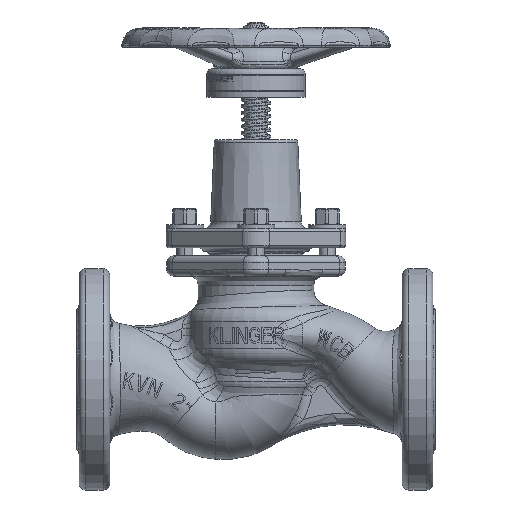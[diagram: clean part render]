
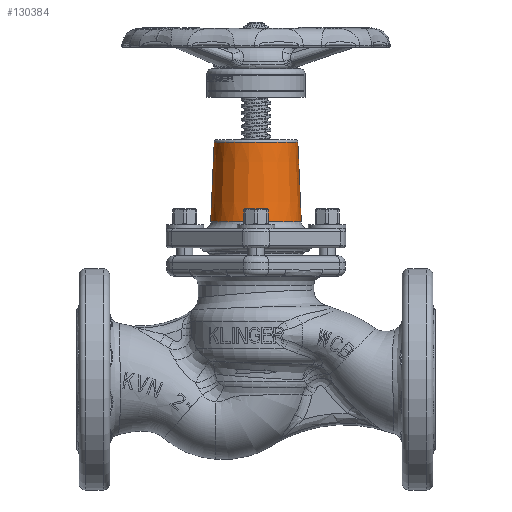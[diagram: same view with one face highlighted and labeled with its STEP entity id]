
A CAD part, front view. The second image highlights one B-rep face of the part: STEP entity #130384.
In plain terms, the highlighted conical face has half-angle 2.5 degrees and reference radius 32.475 mm.
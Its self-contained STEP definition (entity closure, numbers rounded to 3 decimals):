
#30576=DIRECTION('',(0.044,0.,-0.999));
#30577=VECTOR('',#30576,16.103);
#30578=CARTESIAN_POINT('',(31.18,0.,
176.687));
#30579=LINE('',#30578,#30577);
#30585=DIRECTION('',(-0.044,0.,-0.999));
#30586=VECTOR('',#30585,59.384);
#30587=CARTESIAN_POINT('',(-31.18,0.,176.687));
#30588=LINE('',#30587,#30586);
#30594=DIRECTION('',(0.044,0.,-0.999));
#30595=VECTOR('',#30594,39.277);
#30596=CARTESIAN_POINT('',(32.057,0.,156.6));
#30597=LINE('',#30596,#30595);
#30627=CARTESIAN_POINT('',(31.907,-2.,158.6));
#30628=CARTESIAN_POINT('',(31.905,-2.,158.642));
#30629=CARTESIAN_POINT('',(31.902,-1.997,
158.726));
#30630=CARTESIAN_POINT('',(31.897,-1.986,
158.851));
#30631=CARTESIAN_POINT('',(31.893,-1.966,
158.975));
#30632=CARTESIAN_POINT('',(31.889,-1.938,
159.098));
#30633=CARTESIAN_POINT('',(31.886,-1.903,
159.219));
#30634=CARTESIAN_POINT('',(31.883,-1.861,
159.337));
#30635=CARTESIAN_POINT('',(31.881,-1.811,
159.452));
#30636=CARTESIAN_POINT('',(31.879,-1.754,
159.564));
#30637=CARTESIAN_POINT('',(31.878,-1.69,
159.672));
#30638=CARTESIAN_POINT('',(31.877,-1.619,
159.776));
#30639=CARTESIAN_POINT('',(31.877,-1.542,
159.875));
#30640=CARTESIAN_POINT('',(31.877,-1.459,
159.969));
#30641=CARTESIAN_POINT('',(31.877,-1.371,
160.058));
#30642=CARTESIAN_POINT('',(31.877,-1.276,
160.142));
#30643=CARTESIAN_POINT('',(31.877,-1.177,
160.219));
#30644=CARTESIAN_POINT('',(31.878,-1.073,
160.289));
#30645=CARTESIAN_POINT('',(31.879,-0.965,
160.353));
#30646=CARTESIAN_POINT('',(31.879,-0.853,
160.411));
#30647=CARTESIAN_POINT('',(31.88,-0.737,
160.461));
#30648=CARTESIAN_POINT('',(31.881,-0.619,
160.503));
#30649=CARTESIAN_POINT('',(31.881,-0.498,
160.538));
#30650=CARTESIAN_POINT('',(31.882,-0.375,
160.566));
#30651=CARTESIAN_POINT('',(31.882,-0.251,
160.586));
#30652=CARTESIAN_POINT('',(31.882,-0.126,
160.597));
#30653=CARTESIAN_POINT('',(31.882,-0.042,160.6));
#30654=CARTESIAN_POINT('',(31.882,0.,160.6));
#30656=CARTESIAN_POINT('',(32.057,0.,156.6));
#30657=CARTESIAN_POINT('',(32.057,-0.042,156.6));
#30658=CARTESIAN_POINT('',(32.057,-0.125,
156.603));
#30659=CARTESIAN_POINT('',(32.056,-0.25,
156.614));
#30660=CARTESIAN_POINT('',(32.054,-0.374,
156.634));
#30661=CARTESIAN_POINT('',(32.051,-0.496,
156.661));
#30662=CARTESIAN_POINT('',(32.047,-0.617,
156.696));
#30663=CARTESIAN_POINT('',(32.043,-0.735,
156.739));
#30664=CARTESIAN_POINT('',(32.038,-0.85,
156.788));
#30665=CARTESIAN_POINT('',(32.032,-0.962,
156.845));
#30666=CARTESIAN_POINT('',(32.026,-1.07,
156.909));
#30667=CARTESIAN_POINT('',(32.019,-1.175,
156.98));
#30668=CARTESIAN_POINT('',(32.012,-1.274,
157.057));
#30669=CARTESIAN_POINT('',(32.004,-1.369,
157.14));
#30670=CARTESIAN_POINT('',(31.996,-1.458,
157.229));
#30671=CARTESIAN_POINT('',(31.988,-1.541,
157.323));
#30672=CARTESIAN_POINT('',(31.98,-1.618,
157.423));
#30673=CARTESIAN_POINT('',(31.972,-1.689,
157.527));
#30674=CARTESIAN_POINT('',(31.964,-1.753,
157.635));
#30675=CARTESIAN_POINT('',(31.956,-1.811,
157.747));
#30676=CARTESIAN_POINT('',(31.948,-1.861,
157.863));
#30677=CARTESIAN_POINT('',(31.94,-1.903,
157.981));
#30678=CARTESIAN_POINT('',(31.933,-1.938,
158.102));
#30679=CARTESIAN_POINT('',(31.926,-1.966,
158.225));
#30680=CARTESIAN_POINT('',(31.919,-1.986,
158.349));
#30681=CARTESIAN_POINT('',(31.913,-1.997,
158.474));
#30682=CARTESIAN_POINT('',(31.909,-2.,158.558));
#30683=CARTESIAN_POINT('',(31.907,-2.,158.6));
#30685=CARTESIAN_POINT('',(0.,0.,117.36));
#30686=DIRECTION('',(0.,0.,1.));
#30687=DIRECTION('',(-1.,0.,0.));
#30688=AXIS2_PLACEMENT_3D('',#30685,#30686,#30687);
#30690=CARTESIAN_POINT('',(0.,0.,176.687));
#30691=DIRECTION('',(0.,0.,-1.));
#30692=DIRECTION('',(1.,0.,0.));
#30693=AXIS2_PLACEMENT_3D('',#30690,#30691,#30692);
#47570=CARTESIAN_POINT('',(31.18,0.,176.687));
#47571=CARTESIAN_POINT('',(-31.18,0.,176.687));
#47572=VERTEX_POINT('',#47570);
#47573=VERTEX_POINT('',#47571);
#47578=CARTESIAN_POINT('',(-33.77,0.,117.36));
#47579=CARTESIAN_POINT('',(33.77,0.,117.36));
#47580=VERTEX_POINT('',#47578);
#47581=VERTEX_POINT('',#47579);
#48730=VERTEX_POINT('',#30627);
#48731=VERTEX_POINT('',#30654);
#48732=VERTEX_POINT('',#30656);
#130368=CARTESIAN_POINT('',(0.,0.,147.024));
#130369=DIRECTION('',(0.,0.,-1.));
#130370=DIRECTION('',(-1.,0.,0.));
#130371=AXIS2_PLACEMENT_3D('',#130368,#130369,#130370);
#130372=CONICAL_SURFACE('',#130371,32.475,2.5);
#130373=ORIENTED_EDGE('',*,*,#130219,.F.);
#130374=ORIENTED_EDGE('',*,*,#130343,.F.);
#130375=ORIENTED_EDGE('',*,*,#130362,.T.);
#130377=ORIENTED_EDGE('',*,*,#130376,.F.);
#130378=ORIENTED_EDGE('',*,*,#130359,.F.);
#130380=ORIENTED_EDGE('',*,*,#130379,.F.);
#130381=ORIENTED_EDGE('',*,*,#130355,.T.);
#130382=EDGE_LOOP('',(#130373,#130374,#130375,#130377,#130378,#130380,#130381));
#130383=FACE_OUTER_BOUND('',#130382,.F.);
#130384=ADVANCED_FACE('',(#130383),#130372,.T.);
#30655=B_SPLINE_CURVE_WITH_KNOTS('',3,(#30627,#30628,#30629,#30630,#30631,
#30632,#30633,#30634,#30635,#30636,#30637,#30638,#30639,#30640,#30641,#30642,
#30643,#30644,#30645,#30646,#30647,#30648,#30649,#30650,#30651,#30652,#30653,
#30654),.UNSPECIFIED.,.F.,.F.,(4,1,1,1,1,1,1,1,1,1,1,1,1,1,1,1,1,1,1,1,1,1,1,1,
1,4),(0.,0.04,0.08,0.12,0.16,0.2,0.24,0.28,0.32,0.36,0.4,
0.44,0.48,0.52,0.56,0.6,0.64,0.68,0.72,0.76,0.8,0.84,
0.88,0.92,0.96,1.),.UNSPECIFIED.);
#30684=B_SPLINE_CURVE_WITH_KNOTS('',3,(#30656,#30657,#30658,#30659,#30660,
#30661,#30662,#30663,#30664,#30665,#30666,#30667,#30668,#30669,#30670,#30671,
#30672,#30673,#30674,#30675,#30676,#30677,#30678,#30679,#30680,#30681,#30682,
#30683),.UNSPECIFIED.,.F.,.F.,(4,1,1,1,1,1,1,1,1,1,1,1,1,1,1,1,1,1,1,1,1,1,1,1,
1,4),(0.,0.04,0.08,0.12,0.16,0.2,0.24,0.28,0.32,0.36,0.4,
0.44,0.48,0.52,0.56,0.6,0.64,0.68,0.72,0.76,0.8,0.84,
0.88,0.92,0.96,1.),.UNSPECIFIED.);
#30689=CIRCLE('',#30688,33.77);
#30694=CIRCLE('',#30693,31.18);
#130219=EDGE_CURVE('',#48730,#48731,#30655,.T.);
#130343=EDGE_CURVE('',#48732,#48730,#30684,.T.);
#130355=EDGE_CURVE('',#47572,#48731,#30579,.T.);
#130359=EDGE_CURVE('',#47573,#47580,#30588,.T.);
#130362=EDGE_CURVE('',#48732,#47581,#30597,.T.);
#130376=EDGE_CURVE('',#47580,#47581,#30689,.T.);
#130379=EDGE_CURVE('',#47572,#47573,#30694,.T.);
